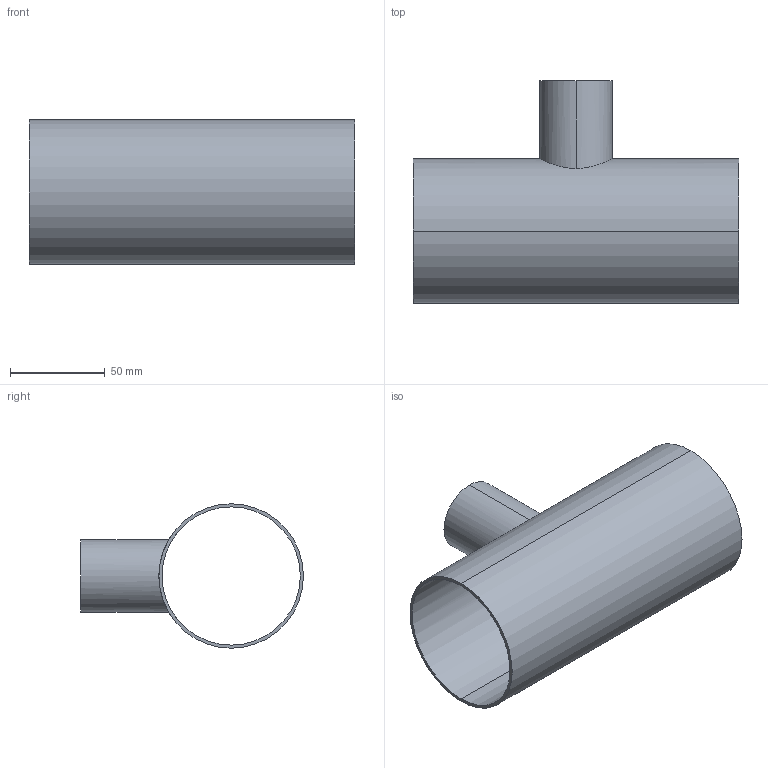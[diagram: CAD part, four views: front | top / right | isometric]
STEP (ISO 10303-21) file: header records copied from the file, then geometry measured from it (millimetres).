
FILE_DESCRIPTION (( 'STEP AP214' ), '1' );
FILE_NAME ('TE7RWWW6L3.0x1.5-...STEP', '2016-05-24T04:25:08', ( 'eran' ), ( '' ), 'SwSTEP 2.0', 'SolidWorks 2016', '' );
FILE_SCHEMA (( 'AUTOMOTIVE_DESIGN' ));
Length unit declared in the file: millimetre
Products named in the file (1): TE7RWWW6L3.0x1.5-..
Bounding box: 171.4 x 117.5 x 76.2 mm (x, y, z)
Volume: 72855.4 mm3; surface area: 89263.9 mm2
Topology: 1 solids, 1 shells, 11 faces, 24 edges, 16 vertices
Faces by surface type: cylinder 8, plane 3
Entity records: 560 total; most frequent: CARTESIAN_POINT 268, DIRECTION 56, ORIENTED_EDGE 48, AXIS2_PLACEMENT_3D 24, EDGE_CURVE 24, VERTEX_POINT 16, EDGE_LOOP 16, CIRCLE 12
